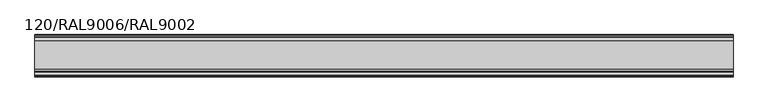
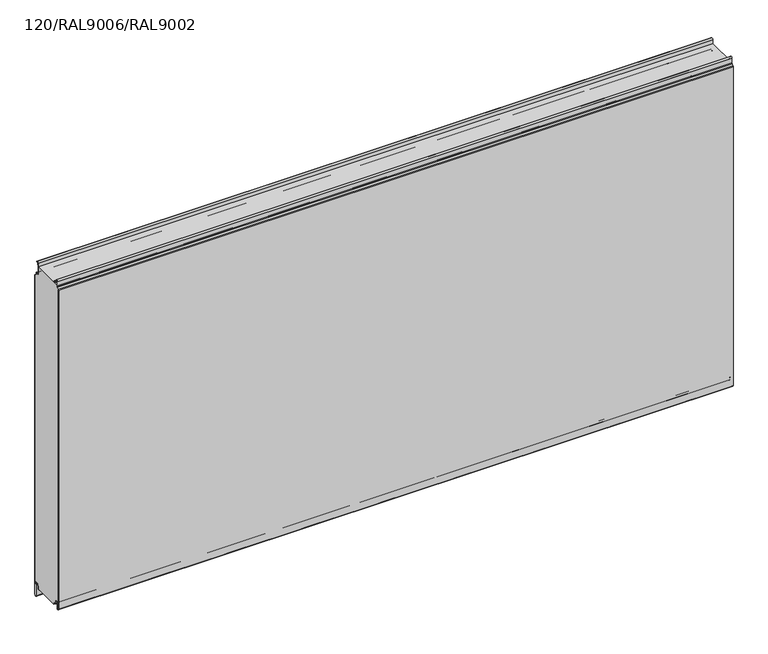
"""IFC4 building model written with IfcOpenShell, lengths in millimetres: plate geometry, TR_C_H_FHL_Panel : 120/RAL9006/RAL9002."""

from ifc_helpers import new_model, si_unit, point, frame, frame_2d, origin, place, context, project, spatial, polyline, circle_curve, trimmed, segment, composite_curve, outline, extrude, source, transform, mapped, element, save


def plate_120_ral9006_ral9002_df0f32c6(model_context):
    return source(origin(), model_context, "Body", "SweptSolid", [
        extrude(outline(composite_curve([segment(polyline([(-17.4455763, 1000.0), (-17.6, 998.2349288), (-17.6, 979.1)]), True, "CONTINUOUS"), segment(trimmed(circle_curve(frame_2d((-14.8, 979.1)), 2.8), [point((-17.6, 979.1))], [point((-14.8, 976.3))], True, "CARTESIAN"), True, "CONTINUOUS"), segment(polyline([(-14.8, 976.3), (-8.9, 976.3)]), True, "CONTINUOUS"), segment(trimmed(circle_curve(frame_2d((-8.9, 974.4)), 1.9), [point((-8.9, 976.3))], [point((-7.0, 974.4))], False, "CARTESIAN"), True, "CONTINUOUS"), segment(polyline([(-7.0, 974.4), (-7.0, 971.5838835)]), True, "CONTINUOUS"), segment(trimmed(circle_curve(frame_2d((-4.2, 971.5838835)), 2.8), [point((-7.0, 971.5838835))], [point((-6.179899, 969.6039845))], True, "CARTESIAN"), True, "CONTINUOUS"), segment(polyline([(-6.179899, 969.6039845), (-1.3564971, 964.7805826)]), True, "CONTINUOUS"), segment(trimmed(circle_curve(frame_2d((-2.7, 963.4370797)), 1.9), [point((-1.3564971, 964.7805826))], [point((-0.8, 963.4370797))], False, "CARTESIAN"), True, "CONTINUOUS"), segment(polyline([(-0.8, 963.4370797), (-0.8, 15.9993484), (-12.3520294, 15.9993484)]), True, "CONTINUOUS"), segment(trimmed(circle_curve(frame_2d((-12.3520294, 11.0993484)), 4.9), [point((-12.3520294, 15.9993484))], [point((-17.2333835, 11.5264116))], True, "CARTESIAN"), True, "CONTINUOUS"), segment(polyline([(-17.2333835, 11.5264116), (-18.0972969, 1.6518352)]), True, "CONTINUOUS"), segment(trimmed(circle_curve(frame_2d((-19.7908279, 1.8)), 1.7), [point((-18.0972969, 1.6518352))], [point((-19.7908279, 0.1))], False, "CARTESIAN"), True, "CONTINUOUS"), segment(polyline([(-19.7908279, 0.1), (-20.8, 0.0), (-94.86, 0.0), (-94.86, 7.9), (-102.3925589, 7.9)]), True, "CONTINUOUS"), segment(trimmed(circle_curve(frame_2d((-102.3925589, 10.85)), 2.95), [point((-102.3925589, 7.9))], [point((-105.2977418, 10.3377379))], False, "CARTESIAN"), True, "CONTINUOUS"), segment(polyline([(-105.2977418, 10.3377379), (-106.364567, 16.3880048)]), True, "CONTINUOUS"), segment(trimmed(circle_curve(frame_2d((-110.55, 15.65)), 4.25), [point((-106.364567, 16.3880048))], [point((-110.55, 19.9))], True, "CARTESIAN"), True, "CONTINUOUS"), segment(polyline([(-110.55, 19.9), (-119.2, 19.9), (-119.2, 989.8218254)]), True, "CONTINUOUS"), segment(trimmed(circle_curve(frame_2d((-117.0, 989.8218254)), 2.2), [point((-119.2, 989.8218254))], [point((-118.5556349, 991.3774603))], False, "CARTESIAN"), True, "CONTINUOUS"), segment(polyline([(-118.5556349, 991.3774603), (-114.1665476, 995.7665476)]), True, "CONTINUOUS"), segment(trimmed(circle_curve(frame_2d((-116.5, 998.1)), 3.3), [point((-114.1665476, 995.7665476))], [point((-113.2, 998.1))], True, "CARTESIAN"), True, "CONTINUOUS"), segment(polyline([(-113.2, 998.1), (-113.2, 1000.0), (-17.4455763, 1000.0)]), True, "CONTINUOUS")], self_intersect=False)), frame((-990.0, 0.0, 0.0), z_axis=(1.0, 0.0, 0.0), x_axis=(0.0, 1.0, 0.0)), (0.0, 0.0, 1.0), 1980.0),
        extrude(outline(composite_curve([segment(polyline([(-0.8, -25.1006169), (-0.8, 963.4370797)]), True, "CONTINUOUS"), segment(trimmed(circle_curve(frame_2d((-2.7, 963.4370797)), 1.9), [point((-0.8, 963.4370797))], [point((-1.3564971, 964.7805826))], True, "CARTESIAN"), True, "CONTINUOUS"), segment(polyline([(-1.3564971, 964.7805826), (-6.179899, 969.6039845)]), True, "CONTINUOUS"), segment(trimmed(circle_curve(frame_2d((-4.2, 971.5838835)), 2.8), [point((-6.179899, 969.6039845))], [point((-7.0, 971.5838835))], False, "CARTESIAN"), True, "CONTINUOUS"), segment(polyline([(-7.0, 971.5838835), (-7.0, 974.4)]), True, "CONTINUOUS"), segment(trimmed(circle_curve(frame_2d((-8.9, 974.4)), 1.9), [point((-7.0, 974.4))], [point((-8.9, 976.3))], True, "CARTESIAN"), True, "CONTINUOUS"), segment(polyline([(-8.9, 976.3), (-14.8, 976.3)]), True, "CONTINUOUS"), segment(trimmed(circle_curve(frame_2d((-14.8, 979.1)), 2.8), [point((-14.8, 976.3))], [point((-17.6, 979.1))], False, "CARTESIAN"), True, "CONTINUOUS"), segment(polyline([(-17.6, 979.1), (-17.6, 998.2349288), (-16.5051936, 1010.748623)]), True, "CONTINUOUS"), segment(trimmed(circle_curve(frame_2d((-12.5204148, 1010.4)), 4.0), [point((-16.5051936, 1010.748623))], [point((-8.7383405, 1011.7022726))], False, "CARTESIAN"), True, "CONTINUOUS"), segment(polyline([(-8.7383405, 1011.7022726), (-8.4287263, 1010.8030877), (-9.1851412, 1010.5426332), (-9.4947554, 1011.4418181)]), True, "CONTINUOUS"), segment(trimmed(circle_curve(frame_2d((-12.5204148, 1010.4)), 3.2), [point((-9.4947554, 1011.4418181))], [point((-15.7082379, 1010.6788984))], True, "CARTESIAN"), True, "CONTINUOUS"), segment(polyline([(-15.7082379, 1010.6788984), (-16.8, 998.2), (-16.8, 979.1)]), True, "CONTINUOUS"), segment(trimmed(circle_curve(frame_2d((-14.8, 979.1)), 2.0), [point((-16.8, 979.1))], [point((-14.8, 977.1))], True, "CARTESIAN"), True, "CONTINUOUS"), segment(polyline([(-14.8, 977.1), (-8.9, 977.1)]), True, "CONTINUOUS"), segment(trimmed(circle_curve(frame_2d((-8.9, 974.4)), 2.7), [point((-8.9, 977.1))], [point((-6.2, 974.4))], False, "CARTESIAN"), True, "CONTINUOUS"), segment(polyline([(-6.2, 974.4), (-6.2, 971.5838835)]), True, "CONTINUOUS"), segment(trimmed(circle_curve(frame_2d((-4.2, 971.5838835)), 2.0), [point((-6.2, 971.5838835))], [point((-5.6142136, 970.1696699))], True, "CARTESIAN"), True, "CONTINUOUS"), segment(polyline([(-5.6142136, 970.1696699), (-0.7908117, 965.346268)]), True, "CONTINUOUS"), segment(trimmed(circle_curve(frame_2d((-2.7, 963.4370797)), 2.7), [point((-0.7908117, 965.346268))], [point((0.0, 963.4370797))], False, "CARTESIAN"), True, "CONTINUOUS"), segment(polyline([(0.0, 963.4370797), (0.0, -25.1006169)]), True, "CONTINUOUS"), segment(trimmed(circle_curve(frame_2d((-2.7, -25.1006169)), 2.7), [point((0.0, -25.1006169))], [point((-0.8586044, -27.0752719))], False, "CARTESIAN"), True, "CONTINUOUS"), segment(polyline([(-0.8586044, -27.0752719), (-2.8042031, -28.889572)]), True, "CONTINUOUS"), segment(trimmed(circle_curve(frame_2d((-4.1, -27.5)), 1.9), [point((-2.8042031, -28.889572))], [point((-6.0, -27.5))], False, "CARTESIAN"), True, "CONTINUOUS"), segment(polyline([(-6.0, -27.5), (-6.0, 4.8267282)]), True, "CONTINUOUS"), segment(trimmed(circle_curve(frame_2d((-8.5, 4.8267282)), 2.5), [point((-6.0, 4.8267282))], [point((-6.1362036, 5.6406486))], True, "CARTESIAN"), True, "CONTINUOUS"), segment(polyline([(-6.1362036, 5.6406486), (-8.4754033, 12.4341779)]), True, "CONTINUOUS"), segment(trimmed(circle_curve(frame_2d((-12.3520294, 11.0993484)), 4.1), [point((-8.4754033, 12.4341779))], [point((-16.4364277, 11.456687))], True, "CARTESIAN"), True, "CONTINUOUS"), segment(polyline([(-16.4364277, 11.456687), (-17.3003412, 1.5821106)]), True, "CONTINUOUS"), segment(trimmed(circle_curve(frame_2d((-19.7908279, 1.8)), 2.5), [point((-17.3003412, 1.5821106))], [point((-19.7908279, -0.7))], False, "CARTESIAN"), True, "CONTINUOUS"), segment(polyline([(-19.7908279, -0.7), (-20.8, -0.7), (-20.8, 0.1), (-19.7908279, 0.1)]), True, "CONTINUOUS"), segment(trimmed(circle_curve(frame_2d((-19.7908279, 1.8)), 1.7), [point((-19.7908279, 0.1))], [point((-18.0972969, 1.6518352))], True, "CARTESIAN"), True, "CONTINUOUS"), segment(polyline([(-18.0972969, 1.6518352), (-17.2333835, 11.5264116)]), True, "CONTINUOUS"), segment(trimmed(circle_curve(frame_2d((-12.3520294, 11.0993484)), 4.9), [point((-17.2333835, 11.5264116))], [point((-7.7189884, 12.6946324))], False, "CARTESIAN"), True, "CONTINUOUS"), segment(polyline([(-7.7189884, 12.6946324), (-5.3797887, 5.9011031)]), True, "CONTINUOUS"), segment(trimmed(circle_curve(frame_2d((-8.5, 4.8267282)), 3.3), [point((-5.3797887, 5.9011031))], [point((-5.2, 4.8267282))], False, "CARTESIAN"), True, "CONTINUOUS"), segment(polyline([(-5.2, 4.8267282), (-5.2, -27.5)]), True, "CONTINUOUS"), segment(trimmed(circle_curve(frame_2d((-4.1, -27.5)), 1.1), [point((-5.2, -27.5))], [point((-3.3498018, -28.3044891))], True, "CARTESIAN"), True, "CONTINUOUS"), segment(polyline([(-3.3498018, -28.3044891), (-1.4042031, -26.4901889)]), True, "CONTINUOUS"), segment(trimmed(circle_curve(frame_2d((-2.7, -25.1006169)), 1.9), [point((-1.4042031, -26.4901889))], [point((-0.8, -25.1006169))], True, "CARTESIAN"), True, "CONTINUOUS")], self_intersect=False)), frame((-990.0, 0.0, 0.0), z_axis=(1.0, 0.0, 0.0), x_axis=(0.0, 1.0, 0.0)), (0.0, 0.0, 1.0), 1980.0),
        extrude(outline(composite_curve([segment(polyline([(-99.0, 7.1), (-102.3925589, 7.1)]), True, "CONTINUOUS"), segment(trimmed(circle_curve(frame_2d((-102.3925589, 10.85)), 3.75), [point((-102.3925589, 7.1))], [point((-106.085588, 10.1988193))], False, "CARTESIAN"), True, "CONTINUOUS"), segment(polyline([(-106.085588, 10.1988193), (-107.1524133, 16.2490862)]), True, "CONTINUOUS"), segment(trimmed(circle_curve(frame_2d((-110.55, 15.65)), 3.45), [point((-107.1524133, 16.2490862))], [point((-114.0, 15.65))], True, "CARTESIAN"), True, "CONTINUOUS"), segment(polyline([(-114.0, 15.65), (-114.0, -1.95)]), True, "CONTINUOUS"), segment(trimmed(circle_curve(frame_2d((-115.95, -1.95)), 1.95), [point((-114.0, -1.95))], [point((-117.3288582, -3.3288582))], False, "CARTESIAN"), True, "CONTINUOUS"), segment(polyline([(-117.3288582, -3.3288582), (-119.1945436, -1.4631728)]), True, "CONTINUOUS"), segment(trimmed(circle_curve(frame_2d((-117.25, 0.4813708)), 2.75), [point((-119.1945436, -1.4631728))], [point((-120.0, 0.4813708))], False, "CARTESIAN"), True, "CONTINUOUS"), segment(polyline([(-120.0, 0.4813708), (-120.0, 989.8218254)]), True, "CONTINUOUS"), segment(trimmed(circle_curve(frame_2d((-117.0, 989.8218254)), 3.0), [point((-120.0, 989.8218254))], [point((-119.1213203, 991.9431458))], False, "CARTESIAN"), True, "CONTINUOUS"), segment(polyline([(-119.1213203, 991.9431458), (-114.732233, 996.332233)]), True, "CONTINUOUS"), segment(trimmed(circle_curve(frame_2d((-116.5, 998.1)), 2.5), [point((-114.732233, 996.332233))], [point((-114.0, 998.1))], True, "CARTESIAN"), True, "CONTINUOUS"), segment(polyline([(-114.0, 998.1), (-114.0, 1012.85)]), True, "CONTINUOUS"), segment(trimmed(circle_curve(frame_2d((-110.75, 1012.85)), 3.25), [point((-114.0, 1012.85))], [point((-107.5493748, 1013.4143566))], False, "CARTESIAN"), True, "CONTINUOUS"), segment(polyline([(-107.5493748, 1013.4143566), (-106.8060618, 1009.1988193)]), True, "CONTINUOUS"), segment(trimmed(circle_curve(frame_2d((-103.1130328, 1009.85)), 3.75), [point((-106.8060618, 1009.1988193))], [point((-103.1130328, 1006.1))], True, "CARTESIAN"), True, "CONTINUOUS"), segment(polyline([(-103.1130328, 1006.1), (-99.0, 1006.1), (-99.0, 1005.3), (-103.1130328, 1005.3)]), True, "CONTINUOUS"), segment(trimmed(circle_curve(frame_2d((-103.1130328, 1009.85)), 4.55), [point((-103.1130328, 1005.3))], [point((-107.5939081, 1009.0599008))], False, "CARTESIAN"), True, "CONTINUOUS"), segment(polyline([(-107.5939081, 1009.0599008), (-108.337221, 1013.275438)]), True, "CONTINUOUS"), segment(trimmed(circle_curve(frame_2d((-110.75, 1012.85)), 2.45), [point((-108.337221, 1013.275438))], [point((-113.2, 1012.85))], True, "CARTESIAN"), True, "CONTINUOUS"), segment(polyline([(-113.2, 1012.85), (-113.2, 998.1)]), True, "CONTINUOUS"), segment(trimmed(circle_curve(frame_2d((-116.5, 998.1)), 3.3), [point((-113.2, 998.1))], [point((-114.1665476, 995.7665476))], False, "CARTESIAN"), True, "CONTINUOUS"), segment(polyline([(-114.1665476, 995.7665476), (-118.5556349, 991.3774603)]), True, "CONTINUOUS"), segment(trimmed(circle_curve(frame_2d((-117.0, 989.8218254)), 2.2), [point((-118.5556349, 991.3774603))], [point((-119.2, 989.8218254))], True, "CARTESIAN"), True, "CONTINUOUS"), segment(polyline([(-119.2, 989.8218254), (-119.2, 0.4813708)]), True, "CONTINUOUS"), segment(trimmed(circle_curve(frame_2d((-117.25, 0.4813708)), 1.95), [point((-119.2, 0.4813708))], [point((-118.6288582, -0.8974874))], True, "CARTESIAN"), True, "CONTINUOUS"), segment(polyline([(-118.6288582, -0.8974874), (-116.7631728, -2.7631728)]), True, "CONTINUOUS"), segment(trimmed(circle_curve(frame_2d((-115.95, -1.95)), 1.15), [point((-116.7631728, -2.7631728))], [point((-114.8, -1.95))], True, "CARTESIAN"), True, "CONTINUOUS"), segment(polyline([(-114.8, -1.95), (-114.8, 15.65)]), True, "CONTINUOUS"), segment(trimmed(circle_curve(frame_2d((-110.55, 15.65)), 4.25), [point((-114.8, 15.65))], [point((-106.364567, 16.3880048))], False, "CARTESIAN"), True, "CONTINUOUS"), segment(polyline([(-106.364567, 16.3880048), (-105.2977418, 10.3377379)]), True, "CONTINUOUS"), segment(trimmed(circle_curve(frame_2d((-102.3925589, 10.85)), 2.95), [point((-105.2977418, 10.3377379))], [point((-102.3925589, 7.9))], True, "CARTESIAN"), True, "CONTINUOUS"), segment(polyline([(-102.3925589, 7.9), (-99.0, 7.9), (-99.0, 7.1)]), True, "CONTINUOUS")], self_intersect=False)), frame((-990.0, 0.0, 0.0), z_axis=(1.0, 0.0, 0.0), x_axis=(0.0, 1.0, 0.0)), (0.0, 0.0, 1.0), 1980.0),
    ])


if __name__ == "__main__":
    model = new_model("IFC4")
    model_context = context("Model", 3, world=origin())
    ifc_project = project(units=[si_unit("LENGTHUNIT", "METRE", prefix="MILLI")], contexts=[model_context])
    site = spatial("IfcSite", under=ifc_project)
    building = spatial("IfcBuilding", under=site)
    placement = place(None, origin())
    plate_120_ral9006_ral9002_shape = plate_120_ral9006_ral9002_df0f32c6(model_context)
    element("IfcPlate", 1, ObjectType="TR_C_H_FHL_Panel : 120/RAL9006/RAL9002", at=placement, inside=building, context=model_context, shape_type="MappedRepresentation", body=[
        mapped(plate_120_ral9006_ral9002_shape, transform((0.0, 0.0, 0.0), x_axis=(1.0, 0.0, 0.0), y_axis=(0.0, 1.0, 0.0), z_axis=(0.0, 0.0, 1.0))),
    ])
    save(model, "model.ifc")
